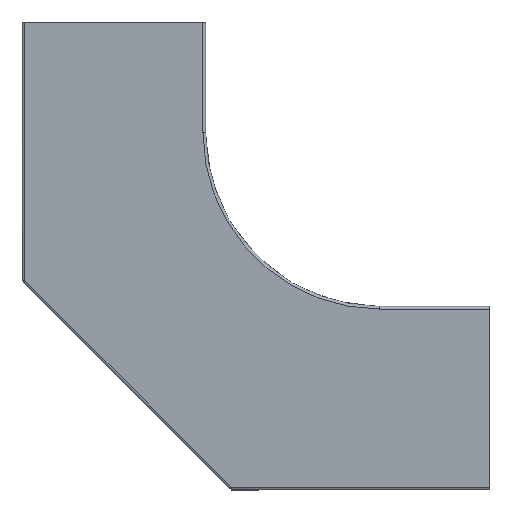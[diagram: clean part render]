
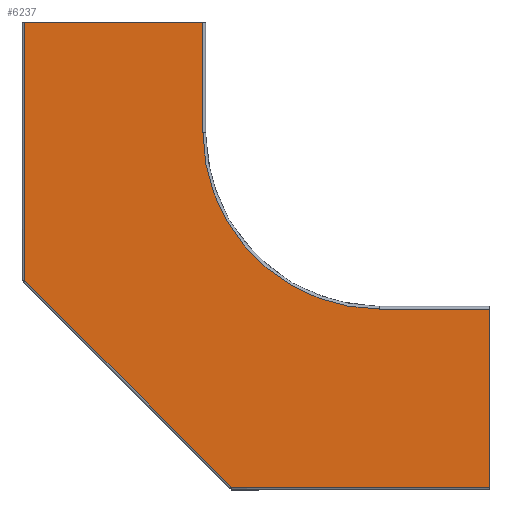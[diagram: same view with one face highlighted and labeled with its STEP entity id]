
A CAD part, front view. The second image highlights one B-rep face of the part: STEP entity #6237.
In plain terms, the highlighted planar face has unit normal (0, -1, 0).
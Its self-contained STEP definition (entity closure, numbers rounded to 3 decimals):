
#152 = ORIENTED_EDGE ( 'NONE', *, *, #8948, .F. ) ;
#174 = VERTEX_POINT ( 'NONE', #4734 ) ;
#627 = CARTESIAN_POINT ( 'NONE',  ( 199., 0., -62. ) ) ;
#735 = ORIENTED_EDGE ( 'NONE', *, *, #6378, .F. ) ;
#836 = DIRECTION ( 'NONE',  ( -1., 0., 0. ) ) ;
#862 = DIRECTION ( 'NONE',  ( 0., -1., 0. ) ) ;
#936 = LINE ( 'NONE', #1636, #7988 ) ;
#1275 = DIRECTION ( 'NONE',  ( 0., 0., -1. ) ) ;
#1328 = PLANE ( 'NONE',  #9000 ) ;
#1374 = EDGE_CURVE ( 'NONE', #2821, #2289, #5477, .T. ) ;
#1471 = VECTOR ( 'NONE', #5306, 1000. ) ;
#1551 = VERTEX_POINT ( 'NONE', #6169 ) ;
#1604 = DIRECTION ( 'NONE',  ( 1., 0., 0. ) ) ;
#1636 = CARTESIAN_POINT ( 'NONE',  ( 116., 0., -261. ) ) ;
#1751 = LINE ( 'NONE', #9329, #5502 ) ;
#1839 = VERTEX_POINT ( 'NONE', #5561 ) ;
#1865 = ORIENTED_EDGE ( 'NONE', *, *, #4946, .F. ) ;
#1904 = VECTOR ( 'NONE', #6042, 1000. ) ;
#1966 = CARTESIAN_POINT ( 'NONE',  ( 100., 0., -62. ) ) ;
#2028 = DIRECTION ( 'NONE',  ( 0., 0., -1. ) ) ;
#2289 = VERTEX_POINT ( 'NONE', #9719 ) ;
#2398 = VERTEX_POINT ( 'NONE', #1966 ) ;
#2409 = CARTESIAN_POINT ( 'NONE',  ( 0., 0., 0. ) ) ;
#2415 = EDGE_CURVE ( 'NONE', #1839, #1551, #3631, .T. ) ;
#2821 = VERTEX_POINT ( 'NONE', #3601 ) ;
#3024 = EDGE_CURVE ( 'NONE', #174, #8505, #10401, .T. ) ;
#3542 = ORIENTED_EDGE ( 'NONE', *, *, #2415, .F. ) ;
#3601 = CARTESIAN_POINT ( 'NONE',  ( 0., 0., 0. ) ) ;
#3631 = LINE ( 'NONE', #3683, #1471 ) ;
#3683 = CARTESIAN_POINT ( 'NONE',  ( 199., 0., -161. ) ) ;
#3692 = CARTESIAN_POINT ( 'NONE',  ( 100., 0., 0. ) ) ;
#4168 = ORIENTED_EDGE ( 'NONE', *, *, #6821, .F. ) ;
#4356 = LINE ( 'NONE', #10185, #1904 ) ;
#4455 = VECTOR ( 'NONE', #2028, 1000. ) ;
#4734 = CARTESIAN_POINT ( 'NONE',  ( 116., 0., -261. ) ) ;
#4946 = EDGE_CURVE ( 'NONE', #2398, #1839, #6896, .T. ) ;
#5035 = ORIENTED_EDGE ( 'NONE', *, *, #10174, .F. ) ;
#5306 = DIRECTION ( 'NONE',  ( 1., 0., 0. ) ) ;
#5477 = LINE ( 'NONE', #2409, #7343 ) ;
#5502 = VECTOR ( 'NONE', #5848, 1000. ) ;
#5561 = CARTESIAN_POINT ( 'NONE',  ( 199., 0., -161. ) ) ;
#5708 = DIRECTION ( 'NONE',  ( 0., 0., -1. ) ) ;
#5837 = EDGE_LOOP ( 'NONE', ( #152, #9742, #5035, #735, #3542, #1865, #4168, #6961 ) ) ;
#5848 = DIRECTION ( 'NONE',  ( 0., 0., -1. ) ) ;
#6020 = LINE ( 'NONE', #3692, #4455 ) ;
#6042 = DIRECTION ( 'NONE',  ( 0., 0., 1. ) ) ;
#6114 = CARTESIAN_POINT ( 'NONE',  ( 261., 0., -261. ) ) ;
#6160 = CARTESIAN_POINT ( 'NONE',  ( 0., 0., -145. ) ) ;
#6169 = CARTESIAN_POINT ( 'NONE',  ( 261., 0., -161. ) ) ;
#6237 = ADVANCED_FACE ( 'NONE', ( #7987 ), #1328, .T. ) ;
#6378 = EDGE_CURVE ( 'NONE', #1551, #6515, #1751, .T. ) ;
#6515 = VERTEX_POINT ( 'NONE', #6114 ) ;
#6821 = EDGE_CURVE ( 'NONE', #2289, #2398, #6020, .T. ) ;
#6832 = VECTOR ( 'NONE', #9525, 1000. ) ;
#6896 = CIRCLE ( 'NONE', #7599, 99. ) ;
#6961 = ORIENTED_EDGE ( 'NONE', *, *, #1374, .F. ) ;
#7127 = DIRECTION ( 'NONE',  ( 0., -1., 0. ) ) ;
#7343 = VECTOR ( 'NONE', #1604, 1000. ) ;
#7599 = AXIS2_PLACEMENT_3D ( 'NONE', #9186, #862, #5708 ) ;
#7987 = FACE_OUTER_BOUND ( 'NONE', #5837, .T. ) ;
#7988 = VECTOR ( 'NONE', #836, 1000. ) ;
#8064 = CARTESIAN_POINT ( 'NONE',  ( 0., 0., -145. ) ) ;
#8505 = VERTEX_POINT ( 'NONE', #6160 ) ;
#8948 = EDGE_CURVE ( 'NONE', #8505, #2821, #4356, .T. ) ;
#9000 = AXIS2_PLACEMENT_3D ( 'NONE', #627, #7127, #1275 ) ;
#9186 = CARTESIAN_POINT ( 'NONE',  ( 199., 0., -62. ) ) ;
#9329 = CARTESIAN_POINT ( 'NONE',  ( 261., 0., -161. ) ) ;
#9525 = DIRECTION ( 'NONE',  ( -0.707, 0., 0.707 ) ) ;
#9719 = CARTESIAN_POINT ( 'NONE',  ( 100., 0., 0. ) ) ;
#9742 = ORIENTED_EDGE ( 'NONE', *, *, #3024, .F. ) ;
#10174 = EDGE_CURVE ( 'NONE', #6515, #174, #936, .T. ) ;
#10185 = CARTESIAN_POINT ( 'NONE',  ( 0., 0., 0. ) ) ;
#10401 = LINE ( 'NONE', #8064, #6832 ) ;
